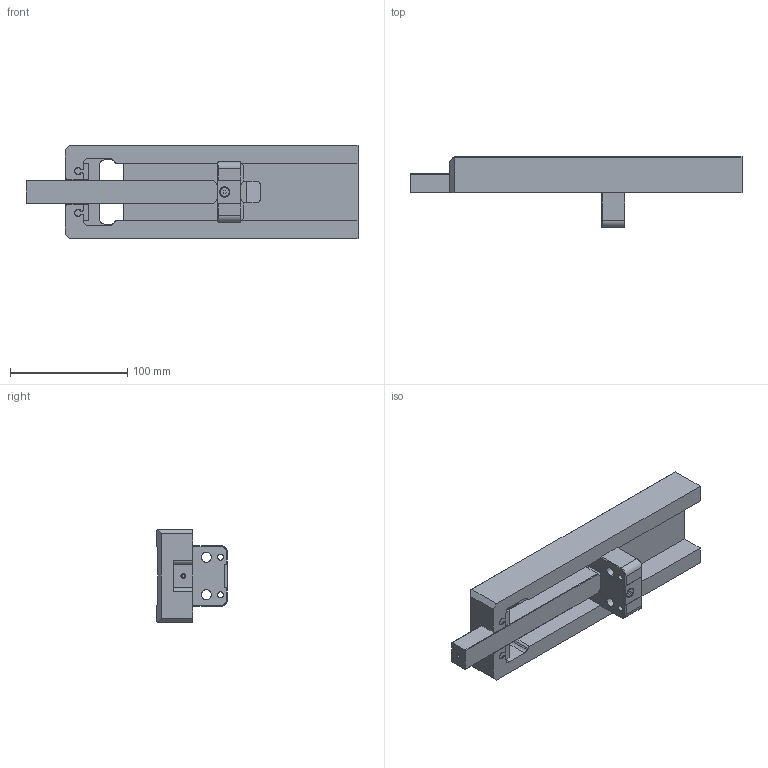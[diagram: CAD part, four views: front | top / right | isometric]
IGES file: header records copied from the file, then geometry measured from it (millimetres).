
Start section: SolidWorks IGES file using analytic representation for surfaces
Global section: file name: G:\CAD\Hakdrag\SA\SA-110\SA-110-250-00.igs; native system: SolidWorks 2015; preprocessor: SolidWorks 2015; author: ChBe; date: 150616.075809; units: millimetre
Bounding box: 283.64 x 60.6 x 80 mm (x, y, z)
Surface area: 93152.6 mm2 (no closed solid volume)
Topology: 0 solids, 0 shells, 152 faces, 1800 edges, 1800 vertices
Faces by surface type: bspline 95, revolution 57
